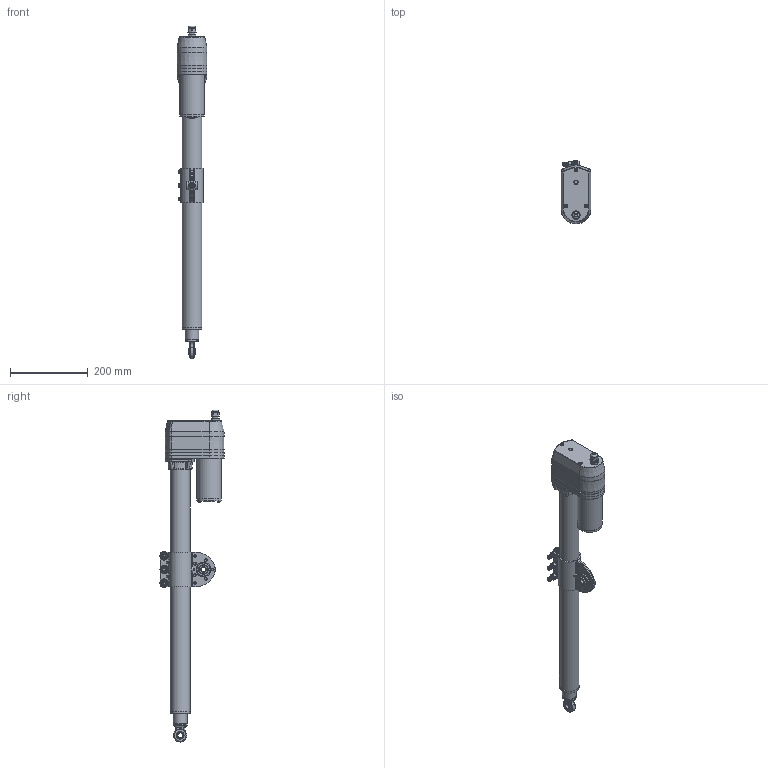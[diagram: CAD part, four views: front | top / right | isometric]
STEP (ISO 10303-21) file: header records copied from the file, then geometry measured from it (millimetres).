
FILE_DESCRIPTION (( 'STEP AP203' ), '1' );
FILE_NAME ('ID10S-B-450.STEP', '2014-06-09T00:52:29', ( '' ), ( '' ), 'SwSTEP 2.0', 'SolidWorks 2013', '' );
FILE_SCHEMA (( 'CONFIG_CONTROL_DESIGN' ));
Length unit declared in the file: millimetre
Products named in the file (4): ID10S-B-450-1; ID10S-B-450-2; ID10S-握把13.0; ID10S-B-450
Assembly tree (3 placements, depth 2):
  ID10S-B-450
    ID10S-B-450-1
    ID10S-B-450-2
    ID10S-握把13.0
Bounding box: 77.1 x 165.28 x 855.2 mm (x, y, z)
Volume: 2902189.2 mm3; surface area: 395302.1 mm2
Topology: 3 solids, 3 shells, 802 faces, 2065 edges, 1341 vertices
Faces by surface type: plane 330, cylinder 212, bspline 127, torus 71, cone 55, sphere 7
Full cylindrical faces by diameter (mm): 7 x18, 8 x1, 8.5 x5, 9 x1, 9.85 x3, 9.9 x1, 10.2 x1, 10.5 x6, 11.8 x7, 13 x2, 15.7 x1, 16 x1, 17.7 x1, 21.4 x1, 21.5 x5, 28 x1, 35.2 x3, 50.8 x2, 62.85 x1, 63.3 x1, 63.5 x1
Entity records: 44423 total; most frequent: CARTESIAN_POINT 26763, ORIENTED_EDGE 3740, DIRECTION 3209, EDGE_CURVE 1870, AXIS2_PLACEMENT_3D 1281, VERTEX_POINT 1269, EDGE_LOOP 1021, FACE_OUTER_BOUND 904
